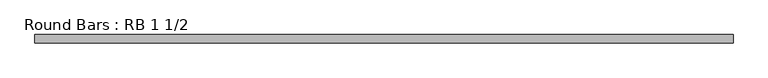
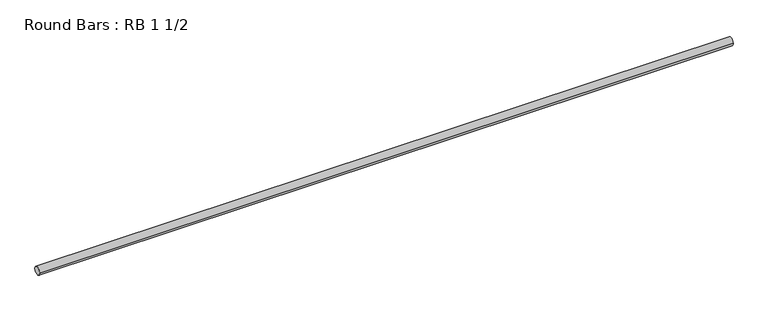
"""IFC4 building model written with IfcOpenShell, lengths in millimetres: member geometry, Round Bars : RB 1 1/2."""

import ifcopenshell
import ifcopenshell.guid

model = None  # the IFC model being written
_history = None  # IfcOwnerHistory: only IFC2X3 demands one
_inside = {}  # id of a spatial element -> (the spatial element, [elements in it])
_under = {}  # id of a project, library or spatial element -> (it, [spatial elements below it])
_declared = {}  # id of a project -> (the project, [libraries it declares])
_typed = {}  # id of a type object -> (the type object, [elements of that type])
_made_of = {}  # id of a material, layer set ... -> (it, [elements and type objects made of it])


def new_model(schema):
    """Start an empty IFC model of exactly this schema.

    Asked for "IFC4X3", IfcOpenShell would pick the latest addendum, in which some entities
    have other attributes; the version numbers below select the first issue.
    IFC2X3 requires an IfcOwnerHistory on every rooted entity: one is made here for all.
    """
    global model, _history
    if schema == "IFC4X3":
        model = ifcopenshell.file(schema_version=(4, 3, 0, 0))
    else:
        model = ifcopenshell.file(schema=schema)
    _inside.clear()
    _under.clear()
    _declared.clear()
    _typed.clear()
    _made_of.clear()
    _history = None
    if model.schema == "IFC2X3":
        org = make("IfcOrganization", Name="unknown")
        user = make(
            "IfcPersonAndOrganization",
            ThePerson=make("IfcPerson", FamilyName="unknown"),
            TheOrganization=org,
        )
        app = make(
            "IfcApplication",
            ApplicationDeveloper=org,
            Version="unknown",
            ApplicationFullName="unknown",
            ApplicationIdentifier="unknown",
        )
        _history = make(
            "IfcOwnerHistory",
            OwningUser=user,
            OwningApplication=app,
            ChangeAction="ADDED",
            CreationDate=0,
        )
    return model


def make(cls, **values):
    """One entity of the class cls with the attributes given. An attribute that is None is left unset."""
    return model.create_entity(
        cls, **{name: value for name, value in values.items() if value is not None}
    )


def rooted(cls, **values):
    """An entity with a GlobalId (a new one), such as an element, a storey or a relation."""
    return make(cls, GlobalId=ifcopenshell.guid.new(), OwnerHistory=_history, **values)


def si_unit(unit_type, name, prefix=None):
    """IfcSIUnit, for example si_unit("LENGTHUNIT", "METRE", prefix="MILLI")."""
    return make("IfcSIUnit", UnitType=unit_type, Prefix=prefix, Name=name)


def assignment(units):
    """IfcUnitAssignment: the units of a project."""
    return None if units is None else make("IfcUnitAssignment", Units=units)


def point(xyz):
    """IfcCartesianPoint."""
    return None if xyz is None else make("IfcCartesianPoint", Coordinates=xyz)


def direction(xyz):
    """IfcDirection."""
    return None if xyz is None else make("IfcDirection", DirectionRatios=xyz)


def frame(location, z_axis=None, x_axis=None):
    """IfcAxis2Placement3D, a coordinate frame: its origin and axes. An axis left out is left unset."""
    return make(
        "IfcAxis2Placement3D",
        Location=point(location),
        Axis=direction(z_axis),
        RefDirection=direction(x_axis),
    )


def frame_2d(location, x_axis=None):
    """IfcAxis2Placement2D, a coordinate frame in the plane: its origin and x axis."""
    return make(
        "IfcAxis2Placement2D", Location=point(location), RefDirection=direction(x_axis)
    )


def origin():
    """The frame at (0, 0, 0) with its axes left unset."""
    return frame((0.0, 0.0, 0.0))


def origin_2d():
    """The frame at (0, 0) in the plane with its x axis left unset."""
    return frame_2d((0.0, 0.0))


def place(relative_to, where):
    """IfcLocalPlacement: puts the frame where relative to a parent placement (None: the world)."""
    return make(
        "IfcLocalPlacement", PlacementRelTo=relative_to, RelativePlacement=where
    )


def context(
    kind, dimensions, precision=None, world=None, true_north=None, identifier=None
):
    """IfcGeometricRepresentationContext, for example the 3D "Model" context."""
    return make(
        "IfcGeometricRepresentationContext",
        ContextIdentifier=identifier,
        ContextType=kind,
        CoordinateSpaceDimension=dimensions,
        Precision=precision,
        WorldCoordinateSystem=world,
        TrueNorth=true_north,
    )


def project(units=None, contexts=None):
    """IfcProject with its units and contexts."""
    return rooted(
        "IfcProject",
        Name="project",
        RepresentationContexts=contexts,
        UnitsInContext=assignment(units),
    )


def spatial(cls, under=None, at=None, **own):
    """A site, building, storey or space (cls), placed at a placement, below another one or the project."""
    s = rooted(cls, ObjectPlacement=at, **own)
    if under is not None:
        _under.setdefault(under.id(), (under, []))[1].append(s)
    return s


def circle_curve(where, radius):
    """IfcCircle in the frame where."""
    return make("IfcCircle", Position=where, Radius=radius)


def trimmed(basis, trim1, trim2, sense, master):
    """IfcTrimmedCurve: the piece of a basis curve between two trims."""
    return make(
        "IfcTrimmedCurve",
        BasisCurve=basis,
        Trim1=trim1,
        Trim2=trim2,
        SenseAgreement=sense,
        MasterRepresentation=master,
    )


def segment(curve, same_sense, transition):
    """IfcCompositeCurveSegment."""
    return make(
        "IfcCompositeCurveSegment",
        Transition=transition,
        SameSense=same_sense,
        ParentCurve=curve,
    )


def composite_curve(segments, self_intersect=None):
    """IfcCompositeCurve: segments joined end to end."""
    return make("IfcCompositeCurve", Segments=segments, SelfIntersect=self_intersect)


def outline(outer, holes=None, kind="AREA"):
    """IfcArbitraryClosedProfileDef: a profile drawn as a closed curve; with holes, ...WithVoids."""
    if holes is None:
        return make("IfcArbitraryClosedProfileDef", ProfileType=kind, OuterCurve=outer)
    return make(
        "IfcArbitraryProfileDefWithVoids",
        ProfileType=kind,
        OuterCurve=outer,
        InnerCurves=holes,
    )


def extrude(swept, where, along, depth):
    """IfcExtrudedAreaSolid: the profile swept, set in the frame where, extruded along a direction by depth."""
    return make(
        "IfcExtrudedAreaSolid",
        SweptArea=swept,
        Position=where,
        ExtrudedDirection=direction(along),
        Depth=depth,
    )


def shape(context_of_items, identifier, shape_type, items):
    """IfcShapeRepresentation: the items that make up one representation, for example the "Body"."""
    return make(
        "IfcShapeRepresentation",
        ContextOfItems=context_of_items,
        RepresentationIdentifier=identifier,
        RepresentationType=shape_type,
        Items=items,
    )


def source(mapping_origin, context_of_items, identifier, shape_type, items):
    """IfcRepresentationMap: a shape defined once, which mapped items show again and again."""
    return make(
        "IfcRepresentationMap",
        MappingOrigin=mapping_origin,
        MappedRepresentation=shape(context_of_items, identifier, shape_type, items),
    )


def transform(
    local_origin,
    x_axis=None,
    y_axis=None,
    z_axis=None,
    scale=None,
    scale2=None,
    scale3=None,
    uniform=True,
):
    """IfcCartesianTransformationOperator3D, or its non-uniform kind. x_axis, y_axis, z_axis: its Axis1, 2, 3."""
    if uniform:
        return make(
            "IfcCartesianTransformationOperator3D",
            Axis1=direction(x_axis),
            Axis2=direction(y_axis),
            LocalOrigin=point(local_origin),
            Scale=scale,
            Axis3=direction(z_axis),
        )
    return make(
        "IfcCartesianTransformationOperator3DnonUniform",
        Axis1=direction(x_axis),
        Axis2=direction(y_axis),
        LocalOrigin=point(local_origin),
        Scale=scale,
        Axis3=direction(z_axis),
        Scale2=scale2,
        Scale3=scale3,
    )


def mapped(mapping_source, mapping_target):
    """IfcMappedItem: shows the shape of a source again, moved by a transform."""
    return make(
        "IfcMappedItem", MappingSource=mapping_source, MappingTarget=mapping_target
    )


def made_of(thing, what):
    """Note that an element or type object is made of a material, layer set ...; save() writes the relation."""
    if what is not None:
        _made_of.setdefault(what.id(), (what, []))[1].append(thing)
    return thing


def element(
    cls,
    number,
    at=None,
    inside=None,
    cuts=None,
    type_object=None,
    material=None,
    context=None,
    identifier="Body",
    shape_type=None,
    held_by="IfcProductDefinitionShape",
    body=None,
    shapes=None,
    **own,
):
    """One element of the class cls, such as IfcWall. Its Tag is "e" and its number.

    at: its placement. inside: the storey or other place that contains it. cuts: it is an
    opening in that element (IfcRelVoidsElement). A single representation is given by context,
    identifier, shape_type and body (its items); several are given by shapes. held_by: the class
    of the entity that holds the representations. save() writes the other relations.
    """
    e = rooted(cls, Tag="e%d" % number, ObjectPlacement=at, **own)
    if body is not None:
        shapes = [shape(context, identifier, shape_type, body)]
    if shapes is not None:
        e.Representation = make(held_by, Representations=shapes)
    if inside is not None:
        _inside.setdefault(inside.id(), (inside, []))[1].append(e)
    if cuts is not None:
        rooted(
            "IfcRelVoidsElement", RelatingBuildingElement=cuts, RelatedOpeningElement=e
        )
    if type_object is not None:
        _typed.setdefault(type_object.id(), (type_object, []))[1].append(e)
    return made_of(e, material)


def aggregate(whole, parts):
    """IfcRelAggregates: a whole, such as a stair, and the parts it consists of."""
    return rooted("IfcRelAggregates", RelatingObject=whole, RelatedObjects=parts)


def save(model, path):
    """Write the relations noted so far, then the file.

    IfcRelAggregates (storeys below a building ...), IfcRelContainedInSpatialStructure (elements
    in a storey), IfcRelDefinesByType, IfcRelAssociatesMaterial and IfcRelDeclares: one each for
    every whole, place, type object, material and project.
    """
    for whole, parts in _under.values():
        aggregate(whole, parts)
    for where, things in _inside.values():
        rooted(
            "IfcRelContainedInSpatialStructure",
            RelatedElements=things,
            RelatingStructure=where,
        )
    for kind, things in _typed.values():
        rooted("IfcRelDefinesByType", RelatedObjects=things, RelatingType=kind)
    for what, things in _made_of.values():
        rooted("IfcRelAssociatesMaterial", RelatedObjects=things, RelatingMaterial=what)
    for by, libraries in _declared.values():
        rooted("IfcRelDeclares", RelatingContext=by, RelatedDefinitions=libraries)
    model.write(path)


def round_bars_rb_1_1_2_4c32dfd0(model_context):
    return source(origin(), model_context, "Body", "SweptSolid", [
        extrude(outline(composite_curve([segment(trimmed(circle_curve(origin_2d(), 19.05), [point((19.05, 0.0))], [point((-19.05, 0.0))], False, "CARTESIAN"), True, "CONTINUOUS"), segment(trimmed(circle_curve(origin_2d(), 19.05), [point((-19.05, 0.0))], [point((19.05, 0.0))], False, "CARTESIAN"), True, "CONTINUOUS")], self_intersect=False)), frame((-1616.272632, 0.0, 0.0), z_axis=(1.0, 0.0, 0.0), x_axis=(0.0, 1.0, 0.0)), (0.0, 0.0, 1.0), 3232.545264),
    ])


if __name__ == "__main__":
    model = new_model("IFC4")
    model_context = context("Model", 3, world=origin())
    ifc_project = project(units=[si_unit("LENGTHUNIT", "METRE", prefix="MILLI")], contexts=[model_context])
    site = spatial("IfcSite", under=ifc_project)
    building = spatial("IfcBuilding", under=site)
    placement = place(None, origin())
    round_bars_rb_1_1_2_shape = round_bars_rb_1_1_2_4c32dfd0(model_context)
    element("IfcMember", 1, ObjectType="Round Bars : RB 1 1/2", at=placement, inside=building, context=model_context, shape_type="MappedRepresentation", body=[
        mapped(round_bars_rb_1_1_2_shape, transform((0.0, 0.0, 0.0), x_axis=(1.0, 0.0, 0.0), y_axis=(0.0, 1.0, 0.0), z_axis=(0.0, 0.0, 1.0))),
    ])
    save(model, "model.ifc")
